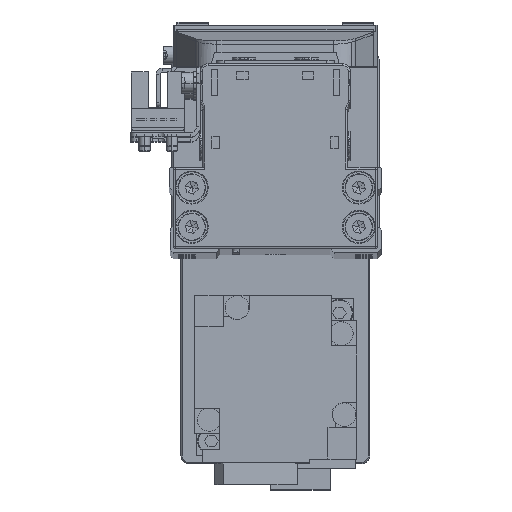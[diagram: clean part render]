
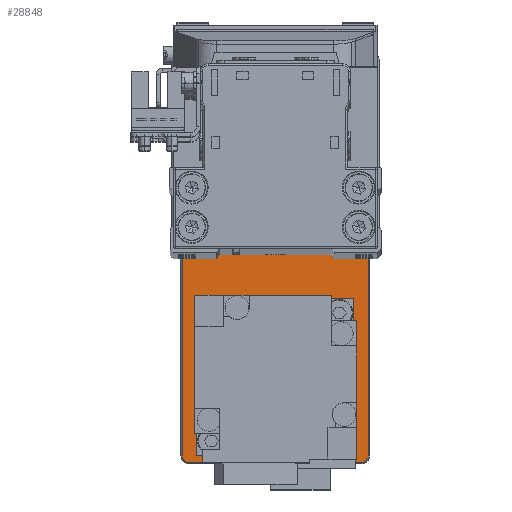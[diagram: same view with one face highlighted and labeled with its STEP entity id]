
A CAD part, top view. The second image highlights one B-rep face of the part: STEP entity #28848.
In plain terms, the highlighted planar face has unit normal (0, 0, 1).
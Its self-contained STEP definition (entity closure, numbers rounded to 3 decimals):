
#202 = EDGE_CURVE ( 'NONE', #14303, #4236, #345, .T. ) ;
#345 = CIRCLE ( 'NONE', #37681, 1.7 ) ;
#535 = CIRCLE ( 'NONE', #23480, 10.3 ) ;
#706 = ORIENTED_EDGE ( 'NONE', *, *, #21834, .T. ) ;
#894 = AXIS2_PLACEMENT_3D ( 'NONE', #16690, #29242, #1098 ) ;
#926 = CARTESIAN_POINT ( 'NONE',  ( 17.2, 0., 5. ) ) ;
#944 = VECTOR ( 'NONE', #36270, 1000. ) ;
#1098 = DIRECTION ( 'NONE',  ( 1., 0., 0. ) ) ;
#1418 = DIRECTION ( 'NONE',  ( 0., -1., 0. ) ) ;
#1427 = CARTESIAN_POINT ( 'NONE',  ( -38.3, 0., 5. ) ) ;
#2497 = AXIS2_PLACEMENT_3D ( 'NONE', #32227, #4068, #16590 ) ;
#3132 = CARTESIAN_POINT ( 'NONE',  ( 50., -22., 5. ) ) ;
#3432 = ORIENTED_EDGE ( 'NONE', *, *, #8519, .T. ) ;
#3940 = VERTEX_POINT ( 'NONE', #13517 ) ;
#4027 = CARTESIAN_POINT ( 'NONE',  ( 0., 0., 5. ) ) ;
#4068 = DIRECTION ( 'NONE',  ( 0., 0., -1. ) ) ;
#4224 = EDGE_CURVE ( 'NONE', #35936, #3940, #18583, .T. ) ;
#4236 = VERTEX_POINT ( 'NONE', #13832 ) ;
#5656 = DIRECTION ( 'NONE',  ( 1., 0., 0. ) ) ;
#5776 = CIRCLE ( 'NONE', #28746, 1.7 ) ;
#6893 = CARTESIAN_POINT ( 'NONE',  ( 50., -23.7, 5. ) ) ;
#6971 = EDGE_CURVE ( 'NONE', #3940, #14303, #17026, .T. ) ;
#7110 = FACE_BOUND ( 'NONE', #33097, .T. ) ;
#7395 = DIRECTION ( 'NONE',  ( 0., 0., 1. ) ) ;
#7565 = DIRECTION ( 'NONE',  ( 1., 0., 0. ) ) ;
#7986 = AXIS2_PLACEMENT_3D ( 'NONE', #9850, #22366, #34906 ) ;
#8519 = EDGE_CURVE ( 'NONE', #10157, #9330, #535, .T. ) ;
#9003 = DIRECTION ( 'NONE',  ( 1., 0., 0. ) ) ;
#9076 = VERTEX_POINT ( 'NONE', #37178 ) ;
#9309 = ORIENTED_EDGE ( 'NONE', *, *, #28625, .T. ) ;
#9330 = VERTEX_POINT ( 'NONE', #1427 ) ;
#9702 = ORIENTED_EDGE ( 'NONE', *, *, #202, .T. ) ;
#9850 = CARTESIAN_POINT ( 'NONE',  ( 30., 0., 5. ) ) ;
#10157 = VERTEX_POINT ( 'NONE', #16877 ) ;
#10200 = DIRECTION ( 'NONE',  ( 1., 0., 0. ) ) ;
#11200 = LINE ( 'NONE', #23724, #944 ) ;
#11250 = EDGE_CURVE ( 'NONE', #4236, #29704, #21263, .T. ) ;
#11498 = VERTEX_POINT ( 'NONE', #22919 ) ;
#11787 = ORIENTED_EDGE ( 'NONE', *, *, #29339, .T. ) ;
#11916 = CARTESIAN_POINT ( 'NONE',  ( -28., 0., 5. ) ) ;
#12044 = DIRECTION ( 'NONE',  ( 0., 1., 0. ) ) ;
#12963 = AXIS2_PLACEMENT_3D ( 'NONE', #4027, #7395, #19929 ) ;
#13517 = CARTESIAN_POINT ( 'NONE',  ( -51.7, 22., 5. ) ) ;
#13832 = CARTESIAN_POINT ( 'NONE',  ( -50., -23.7, 5. ) ) ;
#14132 = AXIS2_PLACEMENT_3D ( 'NONE', #3132, #15664, #28208 ) ;
#14218 = ORIENTED_EDGE ( 'NONE', *, *, #11250, .T. ) ;
#14303 = VERTEX_POINT ( 'NONE', #34332 ) ;
#15562 = VECTOR ( 'NONE', #12044, 1000. ) ;
#15664 = DIRECTION ( 'NONE',  ( 0., 0., 1. ) ) ;
#15740 = ORIENTED_EDGE ( 'NONE', *, *, #29289, .T. ) ;
#15961 = CIRCLE ( 'NONE', #38970, 10.3 ) ;
#16113 = CARTESIAN_POINT ( 'NONE',  ( -50., 23.7, 5. ) ) ;
#16590 = DIRECTION ( 'NONE',  ( 1., 0., 0. ) ) ;
#16690 = CARTESIAN_POINT ( 'NONE',  ( -50., 22., 5. ) ) ;
#16825 = EDGE_CURVE ( 'NONE', #11498, #35936, #11200, .T. ) ;
#16877 = CARTESIAN_POINT ( 'NONE',  ( -17.7, 0., 5. ) ) ;
#17017 = ORIENTED_EDGE ( 'NONE', *, *, #20311, .T. ) ;
#17026 = LINE ( 'NONE', #29569, #20737 ) ;
#17520 = EDGE_LOOP ( 'NONE', ( #15740, #706 ) ) ;
#18085 = ORIENTED_EDGE ( 'NONE', *, *, #16825, .T. ) ;
#18583 = CIRCLE ( 'NONE', #894, 1.7 ) ;
#19637 = FACE_OUTER_BOUND ( 'NONE', #29962, .T. ) ;
#19929 = DIRECTION ( 'NONE',  ( 1., 0., 0. ) ) ;
#20194 = VECTOR ( 'NONE', #5656, 1000. ) ;
#20215 = CIRCLE ( 'NONE', #2497, 12.8 ) ;
#20311 = EDGE_CURVE ( 'NONE', #9330, #10157, #15961, .T. ) ;
#20737 = VECTOR ( 'NONE', #1418, 1000. ) ;
#21263 = LINE ( 'NONE', #33810, #20194 ) ;
#21834 = EDGE_CURVE ( 'NONE', #36055, #35641, #25690, .T. ) ;
#22366 = DIRECTION ( 'NONE',  ( 0., 0., -1. ) ) ;
#22919 = CARTESIAN_POINT ( 'NONE',  ( 50., 23.7, 5. ) ) ;
#22980 = ORIENTED_EDGE ( 'NONE', *, *, #4224, .T. ) ;
#23170 = CARTESIAN_POINT ( 'NONE',  ( 50., 22., 5. ) ) ;
#23480 = AXIS2_PLACEMENT_3D ( 'NONE', #25799, #38356, #10200 ) ;
#23724 = CARTESIAN_POINT ( 'NONE',  ( -50., 23.7, 5. ) ) ;
#23985 = ORIENTED_EDGE ( 'NONE', *, *, #6971, .T. ) ;
#24443 = DIRECTION ( 'NONE',  ( 0., 0., -1. ) ) ;
#24503 = VERTEX_POINT ( 'NONE', #36553 ) ;
#24611 = CARTESIAN_POINT ( 'NONE',  ( -50., -22., 5. ) ) ;
#24849 = EDGE_CURVE ( 'NONE', #29704, #24503, #31831, .T. ) ;
#25690 = CIRCLE ( 'NONE', #7986, 12.8 ) ;
#25799 = CARTESIAN_POINT ( 'NONE',  ( -28., 0., 5. ) ) ;
#25863 = ORIENTED_EDGE ( 'NONE', *, *, #24849, .T. ) ;
#27654 = LINE ( 'NONE', #40195, #15562 ) ;
#28208 = DIRECTION ( 'NONE',  ( 1., 0., 0. ) ) ;
#28625 = EDGE_CURVE ( 'NONE', #24503, #9076, #27654, .T. ) ;
#28746 = AXIS2_PLACEMENT_3D ( 'NONE', #23170, #35717, #7565 ) ;
#28848 = ADVANCED_FACE ( 'NONE', ( #35257, #7110, #19637 ), #32191, .T. ) ;
#29242 = DIRECTION ( 'NONE',  ( 0., 0., 1. ) ) ;
#29289 = EDGE_CURVE ( 'NONE', #35641, #36055, #20215, .T. ) ;
#29339 = EDGE_CURVE ( 'NONE', #9076, #11498, #5776, .T. ) ;
#29569 = CARTESIAN_POINT ( 'NONE',  ( -51.7, -22., 5. ) ) ;
#29704 = VERTEX_POINT ( 'NONE', #6893 ) ;
#29962 = EDGE_LOOP ( 'NONE', ( #14218, #25863, #9309, #11787, #18085, #22980, #23985, #9702 ) ) ;
#31831 = CIRCLE ( 'NONE', #14132, 1.7 ) ;
#31846 = CARTESIAN_POINT ( 'NONE',  ( 42.8, 0., 5. ) ) ;
#32191 = PLANE ( 'NONE',  #12963 ) ;
#32227 = CARTESIAN_POINT ( 'NONE',  ( 30., 0., 5. ) ) ;
#33097 = EDGE_LOOP ( 'NONE', ( #3432, #17017 ) ) ;
#33810 = CARTESIAN_POINT ( 'NONE',  ( 50., -23.7, 5. ) ) ;
#34332 = CARTESIAN_POINT ( 'NONE',  ( -51.7, -22., 5. ) ) ;
#34906 = DIRECTION ( 'NONE',  ( 1., 0., 0. ) ) ;
#35257 = FACE_BOUND ( 'NONE', #17520, .T. ) ;
#35641 = VERTEX_POINT ( 'NONE', #31846 ) ;
#35717 = DIRECTION ( 'NONE',  ( 0., 0., 1. ) ) ;
#35936 = VERTEX_POINT ( 'NONE', #16113 ) ;
#36055 = VERTEX_POINT ( 'NONE', #926 ) ;
#36270 = DIRECTION ( 'NONE',  ( -1., 0., 0. ) ) ;
#36553 = CARTESIAN_POINT ( 'NONE',  ( 51.7, -22., 5. ) ) ;
#36996 = DIRECTION ( 'NONE',  ( 1., 0., 0. ) ) ;
#37159 = DIRECTION ( 'NONE',  ( 0., 0., 1. ) ) ;
#37178 = CARTESIAN_POINT ( 'NONE',  ( 51.7, 22., 5. ) ) ;
#37681 = AXIS2_PLACEMENT_3D ( 'NONE', #24611, #37159, #9003 ) ;
#38356 = DIRECTION ( 'NONE',  ( 0., 0., -1. ) ) ;
#38970 = AXIS2_PLACEMENT_3D ( 'NONE', #11916, #24443, #36996 ) ;
#40195 = CARTESIAN_POINT ( 'NONE',  ( 51.7, 22., 5. ) ) ;
